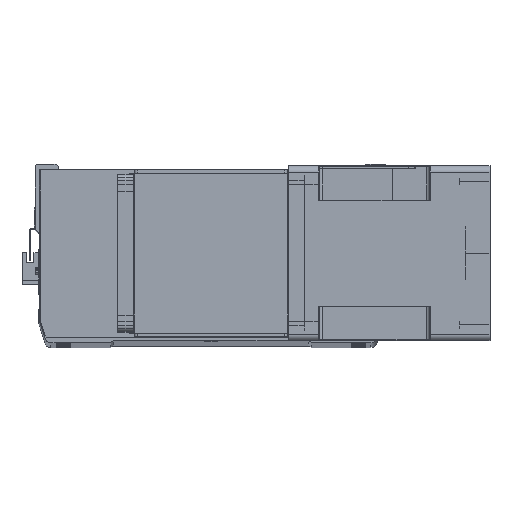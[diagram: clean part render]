
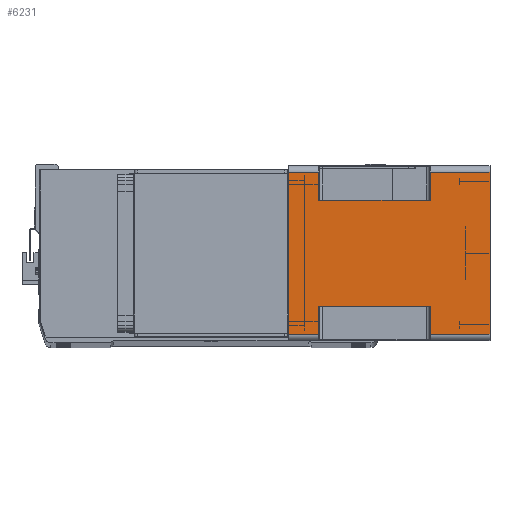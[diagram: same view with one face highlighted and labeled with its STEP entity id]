
A CAD part, top view. The second image highlights one B-rep face of the part: STEP entity #6231.
In plain terms, the highlighted planar face has unit normal (0, 0, 1) as drawn and (1, 0, 0) by its records, which use the part's own axes.
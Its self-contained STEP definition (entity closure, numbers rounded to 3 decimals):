
#116 = VECTOR ( 'NONE', #23285, 1000. ) ;
#1042 = ORIENTED_EDGE ( 'NONE', *, *, #27453, .T. ) ;
#1162 = VERTEX_POINT ( 'NONE', #21809 ) ;
#1504 = DIRECTION ( 'NONE',  ( 0., 0., 1. ) ) ;
#1620 = EDGE_CURVE ( 'NONE', #27280, #20026, #12886, .T. ) ;
#1666 = EDGE_CURVE ( 'NONE', #20271, #5257, #11694, .T. ) ;
#2532 = CARTESIAN_POINT ( 'NONE',  ( 71., -66., 0. ) ) ;
#3362 = ORIENTED_EDGE ( 'NONE', *, *, #20155, .F. ) ;
#3414 = CARTESIAN_POINT ( 'NONE',  ( 71., 66., -115.5 ) ) ;
#4418 = CARTESIAN_POINT ( 'NONE',  ( 71., -66., -164. ) ) ;
#4618 = ORIENTED_EDGE ( 'NONE', *, *, #1666, .F. ) ;
#4770 = VERTEX_POINT ( 'NONE', #20891 ) ;
#5257 = VERTEX_POINT ( 'NONE', #13043 ) ;
#5304 = VECTOR ( 'NONE', #11099, 1000. ) ;
#5758 = CARTESIAN_POINT ( 'NONE',  ( 71., 66., -24.5 ) ) ;
#6231 = ADVANCED_FACE ( 'NONE', ( #25668 ), #28757, .T. ) ;
#6255 = CARTESIAN_POINT ( 'NONE',  ( 71., -66., -164. ) ) ;
#6462 = LINE ( 'NONE', #20715, #116 ) ;
#6838 = LINE ( 'NONE', #17101, #15228 ) ;
#6873 = ORIENTED_EDGE ( 'NONE', *, *, #29159, .T. ) ;
#7282 = AXIS2_PLACEMENT_3D ( 'NONE', #26406, #8338, #26181 ) ;
#8338 = DIRECTION ( 'NONE',  ( 1., 0., 0. ) ) ;
#9154 = ORIENTED_EDGE ( 'NONE', *, *, #1620, .F. ) ;
#9317 = LINE ( 'NONE', #27452, #20485 ) ;
#9630 = ORIENTED_EDGE ( 'NONE', *, *, #14644, .F. ) ;
#9944 = DIRECTION ( 'NONE',  ( 0., 1., 0. ) ) ;
#10409 = CARTESIAN_POINT ( 'NONE',  ( 71., -66., -115.5 ) ) ;
#10508 = ORIENTED_EDGE ( 'NONE', *, *, #27246, .T. ) ;
#10728 = EDGE_CURVE ( 'NONE', #20271, #14341, #19872, .T. ) ;
#11099 = DIRECTION ( 'NONE',  ( 0., 0., -1. ) ) ;
#11694 = LINE ( 'NONE', #6255, #15255 ) ;
#12318 = CARTESIAN_POINT ( 'NONE',  ( 71., -66., -24.5 ) ) ;
#12886 = LINE ( 'NONE', #16087, #5304 ) ;
#13043 = CARTESIAN_POINT ( 'NONE',  ( 71., -66., 0. ) ) ;
#13139 = DIRECTION ( 'NONE',  ( 0., -1., 0. ) ) ;
#13325 = LINE ( 'NONE', #2532, #15742 ) ;
#13894 = CARTESIAN_POINT ( 'NONE',  ( 71., 43., -115.5 ) ) ;
#13991 = ORIENTED_EDGE ( 'NONE', *, *, #17618, .F. ) ;
#14341 = VERTEX_POINT ( 'NONE', #30326 ) ;
#14458 = CARTESIAN_POINT ( 'NONE',  ( 71., -66., -164. ) ) ;
#14644 = EDGE_CURVE ( 'NONE', #25389, #1162, #22603, .T. ) ;
#15228 = VECTOR ( 'NONE', #19443, 1000. ) ;
#15255 = VECTOR ( 'NONE', #29019, 1000. ) ;
#15583 = ORIENTED_EDGE ( 'NONE', *, *, #28783, .T. ) ;
#15742 = VECTOR ( 'NONE', #20344, 1000. ) ;
#16087 = CARTESIAN_POINT ( 'NONE',  ( 71., 43., -164. ) ) ;
#16278 = EDGE_LOOP ( 'NONE', ( #3362, #6873, #9630, #15583, #10508, #21936, #9154, #1042, #20582, #13991, #4618, #29123 ) ) ;
#16986 = VECTOR ( 'NONE', #1504, 1000. ) ;
#17101 = CARTESIAN_POINT ( 'NONE',  ( 71., -66., -24.5 ) ) ;
#17506 = CARTESIAN_POINT ( 'NONE',  ( 71., 66., -164. ) ) ;
#17618 = EDGE_CURVE ( 'NONE', #5257, #4770, #13325, .T. ) ;
#17966 = VECTOR ( 'NONE', #24710, 1000. ) ;
#18055 = EDGE_CURVE ( 'NONE', #24735, #20026, #9317, .T. ) ;
#18996 = LINE ( 'NONE', #10409, #32181 ) ;
#19033 = LINE ( 'NONE', #21431, #23447 ) ;
#19443 = DIRECTION ( 'NONE',  ( 0., 1., 0. ) ) ;
#19872 = LINE ( 'NONE', #27645, #31850 ) ;
#19893 = LINE ( 'NONE', #17506, #29892 ) ;
#20026 = VERTEX_POINT ( 'NONE', #13894 ) ;
#20155 = EDGE_CURVE ( 'NONE', #30542, #14341, #24781, .T. ) ;
#20271 = VERTEX_POINT ( 'NONE', #12318 ) ;
#20344 = DIRECTION ( 'NONE',  ( 0., 1., 0. ) ) ;
#20485 = VECTOR ( 'NONE', #22550, 1000. ) ;
#20582 = ORIENTED_EDGE ( 'NONE', *, *, #25063, .T. ) ;
#20715 = CARTESIAN_POINT ( 'NONE',  ( 71., 66., -164. ) ) ;
#20891 = CARTESIAN_POINT ( 'NONE',  ( 71., 66., 0. ) ) ;
#21431 = CARTESIAN_POINT ( 'NONE',  ( 71., -66., -164. ) ) ;
#21809 = CARTESIAN_POINT ( 'NONE',  ( 71., -66., -115.5 ) ) ;
#21842 = CARTESIAN_POINT ( 'NONE',  ( 71., -43., -115.5 ) ) ;
#21936 = ORIENTED_EDGE ( 'NONE', *, *, #18055, .T. ) ;
#22127 = CARTESIAN_POINT ( 'NONE',  ( 71., -43., -164. ) ) ;
#22550 = DIRECTION ( 'NONE',  ( 0., -1., 0. ) ) ;
#22603 = LINE ( 'NONE', #4418, #16986 ) ;
#23285 = DIRECTION ( 'NONE',  ( 0., 0., 1. ) ) ;
#23447 = VECTOR ( 'NONE', #29467, 1000. ) ;
#23511 = CARTESIAN_POINT ( 'NONE',  ( 71., 43., -24.5 ) ) ;
#23905 = VERTEX_POINT ( 'NONE', #30783 ) ;
#24710 = DIRECTION ( 'NONE',  ( 0., 0., 1. ) ) ;
#24735 = VERTEX_POINT ( 'NONE', #3414 ) ;
#24781 = LINE ( 'NONE', #22127, #17966 ) ;
#25063 = EDGE_CURVE ( 'NONE', #27164, #4770, #19893, .T. ) ;
#25389 = VERTEX_POINT ( 'NONE', #14458 ) ;
#25668 = FACE_OUTER_BOUND ( 'NONE', #16278, .T. ) ;
#26181 = DIRECTION ( 'NONE',  ( 0., 1., 0. ) ) ;
#26406 = CARTESIAN_POINT ( 'NONE',  ( 71., -66., -164. ) ) ;
#27164 = VERTEX_POINT ( 'NONE', #5758 ) ;
#27246 = EDGE_CURVE ( 'NONE', #23905, #24735, #6462, .T. ) ;
#27280 = VERTEX_POINT ( 'NONE', #23511 ) ;
#27452 = CARTESIAN_POINT ( 'NONE',  ( 71., 43., -115.5 ) ) ;
#27453 = EDGE_CURVE ( 'NONE', #27280, #27164, #6838, .T. ) ;
#27645 = CARTESIAN_POINT ( 'NONE',  ( 71., -43., -24.5 ) ) ;
#28757 = PLANE ( 'NONE',  #7282 ) ;
#28783 = EDGE_CURVE ( 'NONE', #25389, #23905, #19033, .T. ) ;
#29019 = DIRECTION ( 'NONE',  ( 0., 0., 1. ) ) ;
#29123 = ORIENTED_EDGE ( 'NONE', *, *, #10728, .T. ) ;
#29159 = EDGE_CURVE ( 'NONE', #30542, #1162, #18996, .T. ) ;
#29467 = DIRECTION ( 'NONE',  ( 0., 1., 0. ) ) ;
#29888 = DIRECTION ( 'NONE',  ( 0., 0., 1. ) ) ;
#29892 = VECTOR ( 'NONE', #29888, 1000. ) ;
#30326 = CARTESIAN_POINT ( 'NONE',  ( 71., -43., -24.5 ) ) ;
#30542 = VERTEX_POINT ( 'NONE', #21842 ) ;
#30783 = CARTESIAN_POINT ( 'NONE',  ( 71., 66., -164. ) ) ;
#31850 = VECTOR ( 'NONE', #9944, 1000. ) ;
#32181 = VECTOR ( 'NONE', #13139, 1000. ) ;
